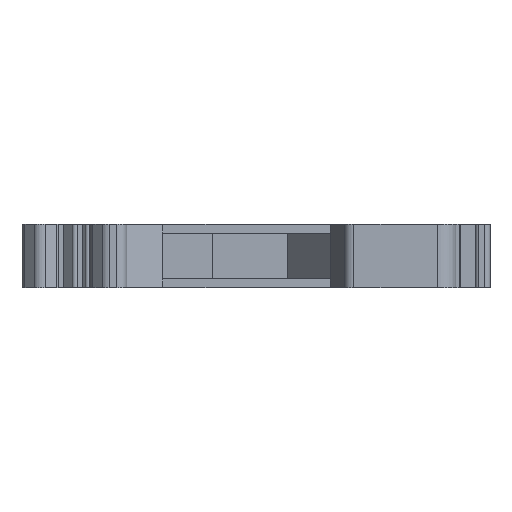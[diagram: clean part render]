
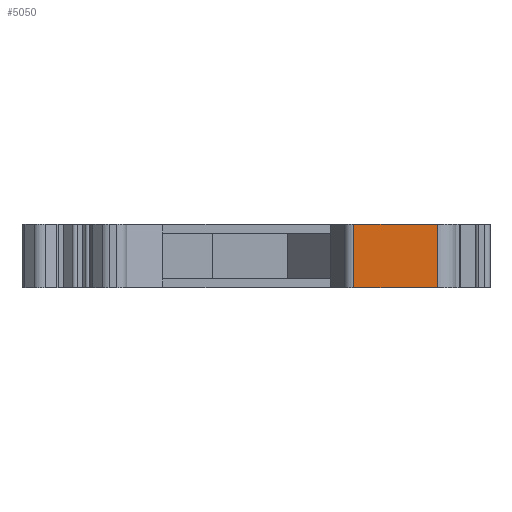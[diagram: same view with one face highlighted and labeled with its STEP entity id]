
A CAD part, left-side view. The second image highlights one B-rep face of the part: STEP entity #5050.
In plain terms, the highlighted planar face has unit normal (-1, 0, 0).
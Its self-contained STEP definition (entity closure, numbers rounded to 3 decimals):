
#1613=DIRECTION('',(0.,1.,0.));
#1614=VECTOR('',#1613,8.245);
#1615=CARTESIAN_POINT('',(-21.25,5.15,-6.2));
#1616=LINE('',#1615,#1614);
#1617=DIRECTION('',(0.,0.,1.));
#1618=VECTOR('',#1617,6.2);
#1619=CARTESIAN_POINT('',(-21.25,13.395,-6.2));
#1620=LINE('',#1619,#1618);
#1621=DIRECTION('',(0.,-1.,0.));
#1622=VECTOR('',#1621,8.245);
#1623=CARTESIAN_POINT('',(-21.25,13.395,0.));
#1624=LINE('',#1623,#1622);
#1625=DIRECTION('',(0.,0.,1.));
#1626=VECTOR('',#1625,6.2);
#1627=CARTESIAN_POINT('',(-21.25,5.15,-6.2));
#1628=LINE('',#1627,#1626);
#2547=CARTESIAN_POINT('',(-21.25,13.395,-6.2));
#2548=VERTEX_POINT('',#2547);
#2549=CARTESIAN_POINT('',(-21.25,5.15,-6.2));
#2551=VERTEX_POINT('',#2549);
#2816=CARTESIAN_POINT('',(-21.25,5.15,0.));
#2818=VERTEX_POINT('',#2816);
#2819=CARTESIAN_POINT('',(-21.25,13.395,0.));
#2820=VERTEX_POINT('',#2819);
#5038=CARTESIAN_POINT('',(-21.25,9.272,-3.1));
#5039=DIRECTION('',(1.,0.,0.));
#5040=DIRECTION('',(0.,0.,-1.));
#5041=AXIS2_PLACEMENT_3D('',#5038,#5039,#5040);
#5042=PLANE('',#5041);
#5043=ORIENTED_EDGE('',*,*,#3324,.T.);
#5044=ORIENTED_EDGE('',*,*,#5031,.T.);
#5045=ORIENTED_EDGE('',*,*,#3632,.T.);
#5047=ORIENTED_EDGE('',*,*,#5046,.F.);
#5048=EDGE_LOOP('',(#5043,#5044,#5045,#5047));
#5049=FACE_OUTER_BOUND('',#5048,.F.);
#3324=EDGE_CURVE('',#2551,#2548,#1616,.T.);
#3632=EDGE_CURVE('',#2820,#2818,#1624,.T.);
#5031=EDGE_CURVE('',#2548,#2820,#1620,.T.);
#5046=EDGE_CURVE('',#2551,#2818,#1628,.T.);
#5050=ADVANCED_FACE('',(#5049),#5042,.F.);
